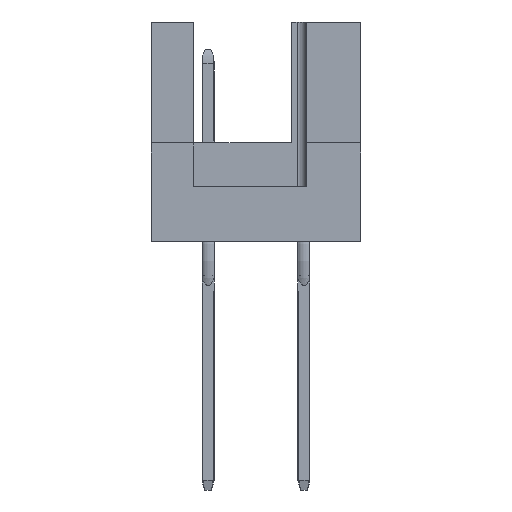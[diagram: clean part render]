
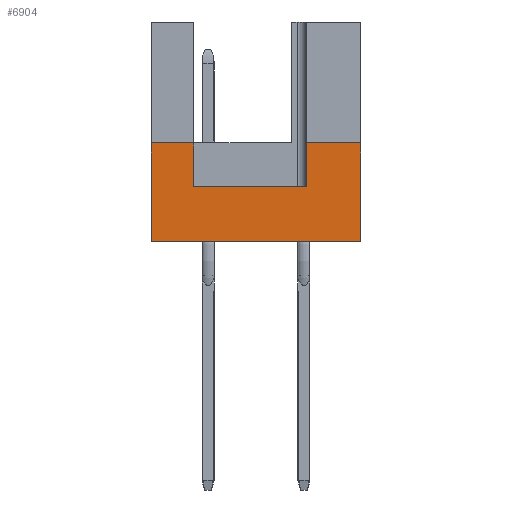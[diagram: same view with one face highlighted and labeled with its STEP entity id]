
A CAD part, left-side view. The second image highlights one B-rep face of the part: STEP entity #6904.
In plain terms, the highlighted planar face has unit normal (-1, 0, 0).
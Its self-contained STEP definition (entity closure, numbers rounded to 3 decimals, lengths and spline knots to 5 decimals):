
#1072=FACE_OUTER_BOUND('',#12280,.T.);
#6904=ADVANCED_FACE('',(#1072),#9967,.F.);
#9967=PLANE('',#57641);
#12280=EDGE_LOOP('',(#17178,#17179,#17180,#17181,#17182,#17183,#17184,#17185));
#17178=ORIENTED_EDGE('',*,*,#39951,.F.);
#17179=ORIENTED_EDGE('',*,*,#39982,.T.);
#17180=ORIENTED_EDGE('',*,*,#39983,.F.);
#17181=ORIENTED_EDGE('',*,*,#39984,.F.);
#17182=ORIENTED_EDGE('',*,*,#39957,.F.);
#17183=ORIENTED_EDGE('',*,*,#39985,.F.);
#17184=ORIENTED_EDGE('',*,*,#39885,.T.);
#17185=ORIENTED_EDGE('',*,*,#39986,.T.);
#34275=VERTEX_POINT('',#83006);
#34276=VERTEX_POINT('',#83008);
#34333=VERTEX_POINT('',#83140);
#34335=VERTEX_POINT('',#83143);
#34338=VERTEX_POINT('',#83150);
#34340=VERTEX_POINT('',#83154);
#34352=VERTEX_POINT('',#83199);
#34353=VERTEX_POINT('',#83201);
#39885=EDGE_CURVE('',#34276,#34275,#48364,.T.);
#39951=EDGE_CURVE('',#34333,#34335,#48418,.T.);
#39957=EDGE_CURVE('',#34340,#34338,#48424,.T.);
#39982=EDGE_CURVE('',#34333,#34352,#48449,.T.);
#39983=EDGE_CURVE('',#34353,#34352,#48450,.T.);
#39984=EDGE_CURVE('',#34338,#34353,#48451,.T.);
#39985=EDGE_CURVE('',#34276,#34340,#48452,.T.);
#39986=EDGE_CURVE('',#34275,#34335,#48453,.T.);
#48364=LINE('',#83007,#53245);
#48418=LINE('',#83142,#53299);
#48424=LINE('',#83155,#53305);
#48449=LINE('',#83198,#53330);
#48450=LINE('',#83200,#53331);
#48451=LINE('',#83202,#53332);
#48452=LINE('',#83203,#53333);
#48453=LINE('',#83204,#53334);
#53245=VECTOR('',#63898,1.);
#53299=VECTOR('',#63996,1.);
#53305=VECTOR('',#64004,1.);
#53330=VECTOR('',#64043,1.);
#53331=VECTOR('',#64044,1.);
#53332=VECTOR('',#64045,1.);
#53333=VECTOR('',#64046,1.);
#53334=VECTOR('',#64047,1.);
#57641=AXIS2_PLACEMENT_3D('',#83205,#64048,#64049);
#63898=DIRECTION('',(0.,-1.,0.));
#63996=DIRECTION('',(0.,-1.,0.));
#64004=DIRECTION('',(0.,-1.,0.));
#64043=DIRECTION('',(0.,0.,-1.));
#64044=DIRECTION('',(0.,-1.,0.));
#64045=DIRECTION('',(0.,0.,-1.));
#64046=DIRECTION('',(0.,0.,1.));
#64047=DIRECTION('',(0.,0.,1.));
#64048=DIRECTION('',(1.,0.,0.));
#64049=DIRECTION('',(0.,0.,-1.));
#83006=CARTESIAN_POINT('',(0.,0.,0.));
#83007=CARTESIAN_POINT('',(0.,0.437,0.));
#83008=CARTESIAN_POINT('',(0.,0.437,0.));
#83140=CARTESIAN_POINT('',(0.,0.113,0.205));
#83142=CARTESIAN_POINT('',(0.,0.437,0.205));
#83143=CARTESIAN_POINT('',(0.,0.,0.205));
#83150=CARTESIAN_POINT('',(0.,0.348,0.205));
#83154=CARTESIAN_POINT('',(0.,0.437,0.205));
#83155=CARTESIAN_POINT('',(0.,0.437,0.205));
#83198=CARTESIAN_POINT('',(0.,0.113,0.457));
#83199=CARTESIAN_POINT('',(0.,0.113,0.114));
#83200=CARTESIAN_POINT('',(0.,0.348,0.114));
#83201=CARTESIAN_POINT('',(0.,0.348,0.114));
#83202=CARTESIAN_POINT('',(0.,0.348,0.457));
#83203=CARTESIAN_POINT('',(0.,0.437,0.));
#83204=CARTESIAN_POINT('',(0.,0.,0.));
#83205=CARTESIAN_POINT('',(0.,0.437,0.));
